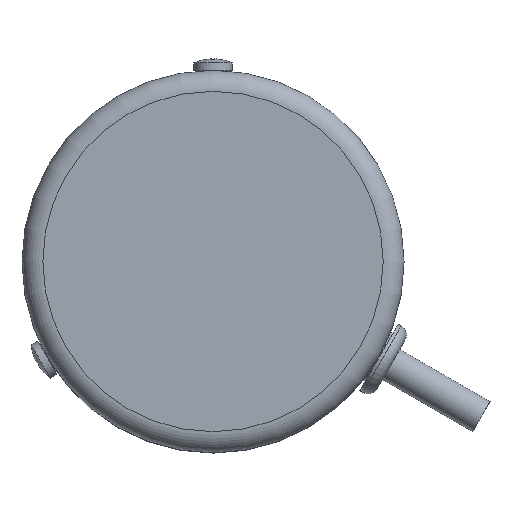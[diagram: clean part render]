
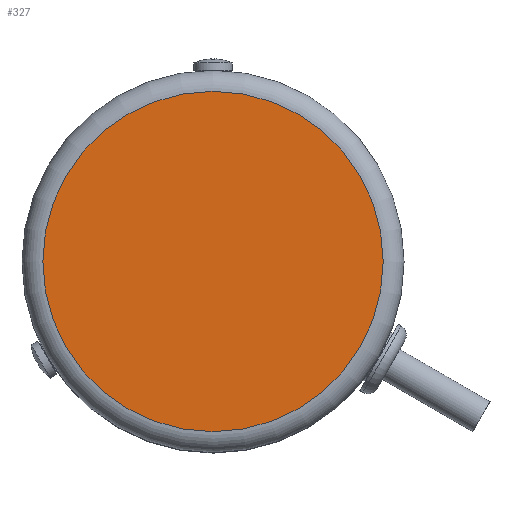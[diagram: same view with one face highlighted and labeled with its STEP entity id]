
A CAD part, top view. The second image highlights one B-rep face of the part: STEP entity #327.
In plain terms, the highlighted planar face has unit normal (0, 0, 1).
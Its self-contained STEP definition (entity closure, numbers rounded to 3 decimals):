
#327=ADVANCED_FACE('',(#680),#681,.F.);
#680=FACE_OUTER_BOUND('',#1028,.T.);
#681=PLANE('',#1029);
#1028=EDGE_LOOP('',(#1701));
#1029=AXIS2_PLACEMENT_3D('',#1702,#1703,#1704);
#1701=ORIENTED_EDGE('',*,*,#1823,.T.);
#1702=CARTESIAN_POINT('',(11.908,-6.875,51.5));
#1703=DIRECTION('',(0.,0.,-1.0));
#1704=DIRECTION('',(-0.866,0.5,0.));
#1823=EDGE_CURVE('',#2122,#2122,#2123,.F.);
#2122=VERTEX_POINT('',#2903);
#2123=CIRCLE('',#2904,24.5);
#2903=CARTESIAN_POINT('',(-21.218,12.25,51.5));
#2904=AXIS2_PLACEMENT_3D('',#3541,#3542,#3543);
#3541=CARTESIAN_POINT('',(0.,0.,51.5));
#3542=DIRECTION('',(0.,0.,-1.0));
#3543=DIRECTION('',(-0.866,0.5,0.));
